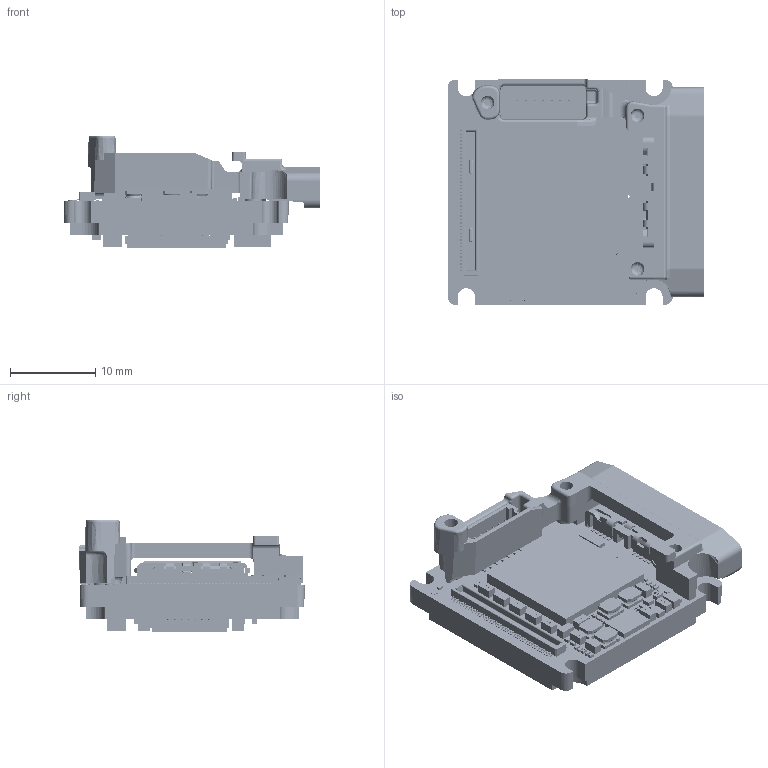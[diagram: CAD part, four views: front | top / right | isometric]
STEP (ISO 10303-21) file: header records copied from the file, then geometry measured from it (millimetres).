
FILE_DESCRIPTION (( 'STEP AP214' ), '1' );
FILE_NAME ('Alvium-USB90-Bare-Board-IMX900.STEP', '2024-03-22T10:03:16', ( '' ), ( '' ), 'SwSTEP 2.0', 'SolidWorks 2021', '' );
FILE_SCHEMA (( 'AUTOMOTIVE_DESIGN' ));
Length unit declared in the file: millimetre
Products named in the file (1): Alvium-USB90-Bare-Board-IMX900
Bounding box: 30.1 x 26.45 x 13.24 mm (x, y, z)
Volume: 3815.8 mm3; surface area: 5332.2 mm2
Topology: 164 solids, 164 shells, 11533 faces, 29266 edges, 19021 vertices
Faces by surface type: plane 6133, bspline 4335, cylinder 987, cone 38, torus 32, sphere 8
Entity records: 720473 total; most frequent: CARTESIAN_POINT 343324, ORIENTED_EDGE 58518, DIRECTION 36711, EDGE_CURVE 29259, VERTEX_POINT 19021, VECTOR 18361, LINE 18361, EDGE_LOOP 12544
